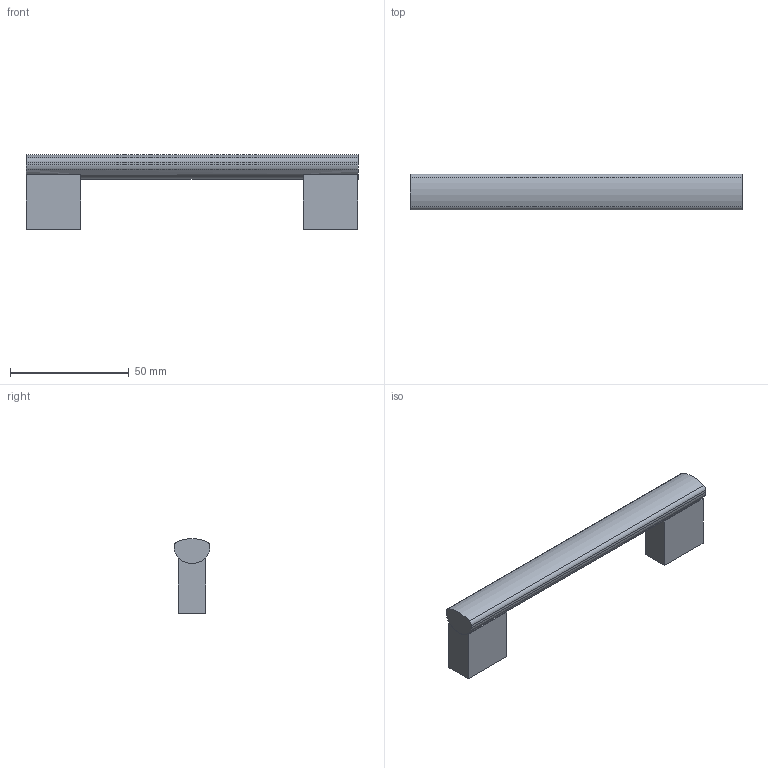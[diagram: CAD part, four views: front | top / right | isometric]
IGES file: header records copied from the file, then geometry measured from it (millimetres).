
Start section: Data from XPlus IGES,  Spatial Corp. Copyright (c) 1999-2004
Global section: file name: 115355.igs; native system:  By Spatial Corp.; preprocessor: XPlus ACIS/IGES 3.0; author: Noname; organization: Noname; date: 20130226.190324; units: millimetre
Bounding box: 140 x 15 x 31.44 mm (x, y, z)
Surface area: 9376 mm2 (no closed solid volume)
Topology: 0 solids, 0 shells, 30 faces, 144 edges, 144 vertices
Faces by surface type: extrusion 20, revolution 10
